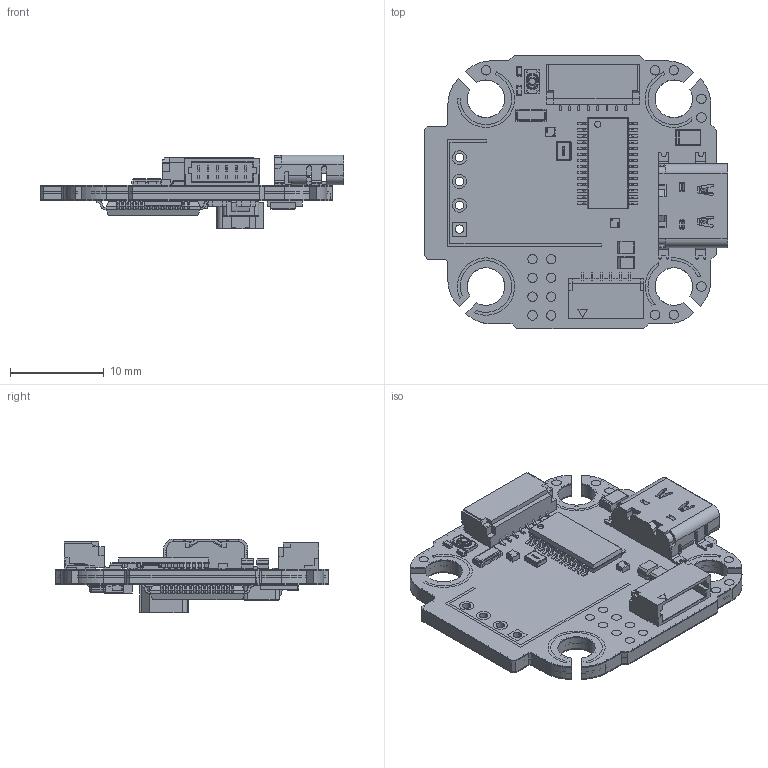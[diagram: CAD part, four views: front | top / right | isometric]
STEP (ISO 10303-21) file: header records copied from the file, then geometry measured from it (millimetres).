
FILE_DESCRIPTION (( 'STEP AP214' ), '1' );
FILE_NAME ('LMODNR_render-20240513.STEP', '2024-05-17T15:13:58', ( '' ), ( '' ), 'SwSTEP 2.0', 'SolidWorks 2023', '' );
FILE_SCHEMA (( 'AUTOMOTIVE_DESIGN' ));
Length unit declared in the file: millimetre
Products named in the file (1): LMODNR_render-20240513
Bounding box: 32.28 x 29.09 x 7.87 mm (x, y, z)
Volume: 2367.9 mm3; surface area: 7591.8 mm2
Topology: 68 solids, 68 shells, 5853 faces, 16003 edges, 10383 vertices
Faces by surface type: plane 4217, cylinder 1094, bspline 392, sphere 104, torus 24, cone 22
Entity records: 250973 total; most frequent: CARTESIAN_POINT 43547, ORIENTED_EDGE 31766, DIRECTION 27442, EDGE_CURVE 15883, VECTOR 12142, LINE 12142, VERTEX_POINT 10383, AXIS2_PLACEMENT_3D 7650
